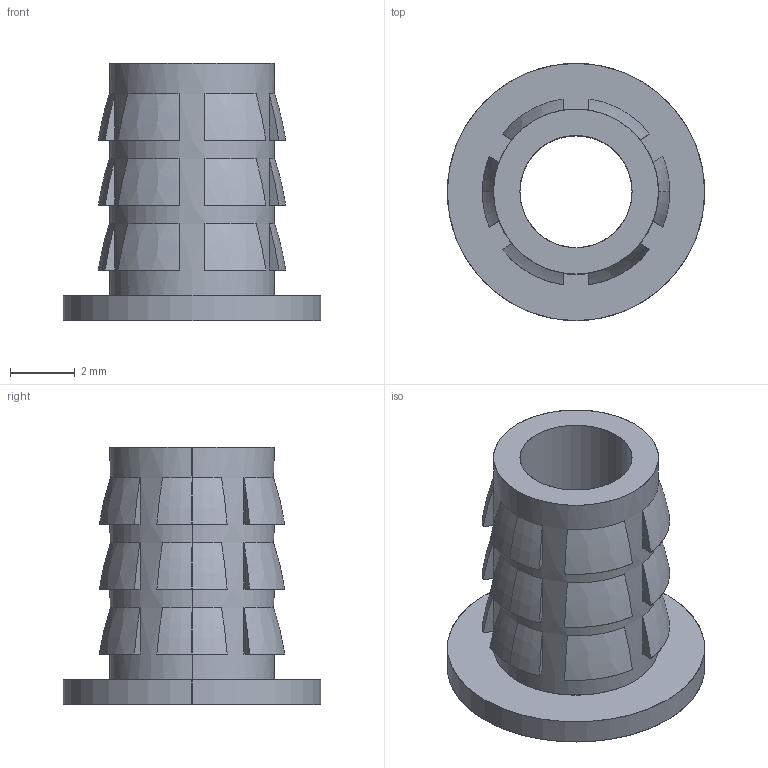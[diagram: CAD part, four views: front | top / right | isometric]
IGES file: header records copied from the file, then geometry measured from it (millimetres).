
Start section: SolidWorks IGES file using analytic representation for surfaces
Global section: file name: G:\thermofab project\INSERT\insert project\INSERT 3D\flanged insert 8-32.IGS; native system: SolidWorks 2015; preprocessor: SolidWorks 2015; author: Administrator; date: 170809.120948; units: millimetre
Bounding box: 7.92 x 7.92 x 7.92 mm (x, y, z)
Surface area: 324.5 mm2 (no closed solid volume)
Topology: 0 solids, 0 shells, 89 faces, 704 edges, 704 vertices
Faces by surface type: bspline 81, revolution 8
